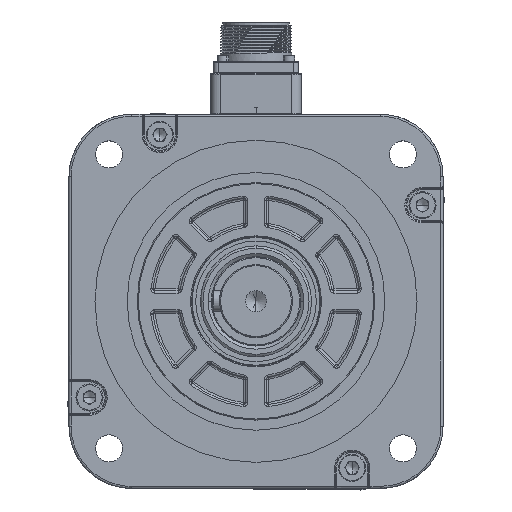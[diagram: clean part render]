
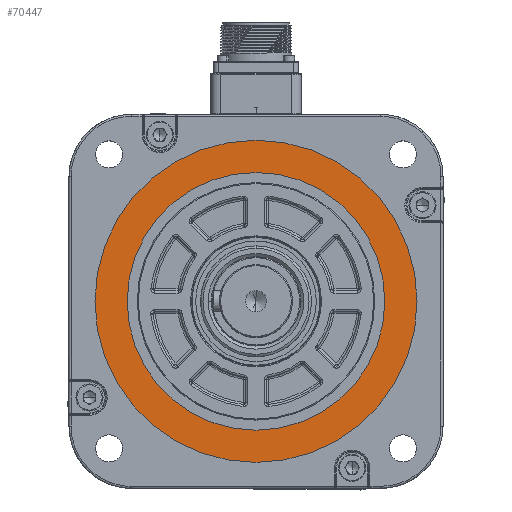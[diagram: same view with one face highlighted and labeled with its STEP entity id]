
A CAD part, top view. The second image highlights one B-rep face of the part: STEP entity #70447.
In plain terms, the highlighted planar face has unit normal (0, 0, 1) as drawn and (0, 0, -1) by its records, which use the part's own axes.
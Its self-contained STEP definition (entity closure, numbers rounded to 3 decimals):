
#2205 = EDGE_CURVE ( 'NONE', #91747, #92883, #133206, .T. ) ;
#12123 = AXIS2_PLACEMENT_3D ( 'NONE', #90935, #22994, #103531 ) ;
#15219 = VERTEX_POINT ( 'NONE', #129367 ) ;
#21522 = DIRECTION ( 'NONE',  ( 0., 0., -1. ) ) ;
#22994 = DIRECTION ( 'NONE',  ( 0., 0., -1. ) ) ;
#24578 = EDGE_LOOP ( 'NONE', ( #78151, #76892 ) ) ;
#26402 = ORIENTED_EDGE ( 'NONE', *, *, #145618, .T. ) ;
#31322 = DIRECTION ( 'NONE',  ( 0., 0., 1. ) ) ;
#32701 = CARTESIAN_POINT ( 'NONE',  ( 0., 0., 1.5 ) ) ;
#41618 = EDGE_CURVE ( 'NONE', #92883, #91747, #135496, .T. ) ;
#42532 = DIRECTION ( 'NONE',  ( -1., 0., 0. ) ) ;
#45432 = AXIS2_PLACEMENT_3D ( 'NONE', #66617, #21522, #67611 ) ;
#60597 = DIRECTION ( 'NONE',  ( 0., 0., 1. ) ) ;
#66617 = CARTESIAN_POINT ( 'NONE',  ( 0., 0., 1.5 ) ) ;
#66643 = DIRECTION ( 'NONE',  ( 0., 0., -1. ) ) ;
#67611 = DIRECTION ( 'NONE',  ( -1., 0., 0. ) ) ;
#70447 = ADVANCED_FACE ( 'NONE', ( #86280, #75319 ), #136572, .T. ) ;
#71715 = DIRECTION ( 'NONE',  ( -1., 0., 0. ) ) ;
#71766 = AXIS2_PLACEMENT_3D ( 'NONE', #32701, #66643, #124424 ) ;
#72312 = AXIS2_PLACEMENT_3D ( 'NONE', #76430, #31322, #42532 ) ;
#75319 = FACE_BOUND ( 'NONE', #24578, .T. ) ;
#76430 = CARTESIAN_POINT ( 'NONE',  ( 0., 0., 1.5 ) ) ;
#76892 = ORIENTED_EDGE ( 'NONE', *, *, #41618, .T. ) ;
#78151 = ORIENTED_EDGE ( 'NONE', *, *, #2205, .T. ) ;
#78773 = CARTESIAN_POINT ( 'NONE',  ( -62., 0., 1.5 ) ) ;
#78892 = VERTEX_POINT ( 'NONE', #91945 ) ;
#80378 = EDGE_CURVE ( 'NONE', #78892, #15219, #114824, .T. ) ;
#86280 = FACE_OUTER_BOUND ( 'NONE', #124099, .T. ) ;
#90935 = CARTESIAN_POINT ( 'NONE',  ( 0., 0., 1.5 ) ) ;
#91747 = VERTEX_POINT ( 'NONE', #78773 ) ;
#91945 = CARTESIAN_POINT ( 'NONE',  ( -77.5, 0., 1.5 ) ) ;
#92883 = VERTEX_POINT ( 'NONE', #99196 ) ;
#99196 = CARTESIAN_POINT ( 'NONE',  ( 62., 0., 1.5 ) ) ;
#103531 = DIRECTION ( 'NONE',  ( -1., 0., 0. ) ) ;
#103593 = CIRCLE ( 'NONE', #12123, 77.5 ) ;
#104379 = AXIS2_PLACEMENT_3D ( 'NONE', #142707, #60597, #71715 ) ;
#114824 = CIRCLE ( 'NONE', #45432, 77.5 ) ;
#124099 = EDGE_LOOP ( 'NONE', ( #134728, #26402 ) ) ;
#124424 = DIRECTION ( 'NONE',  ( -1., 0., 0. ) ) ;
#129367 = CARTESIAN_POINT ( 'NONE',  ( 77.5, 0., 1.5 ) ) ;
#133206 = CIRCLE ( 'NONE', #104379, 62. ) ;
#134728 = ORIENTED_EDGE ( 'NONE', *, *, #80378, .T. ) ;
#135496 = CIRCLE ( 'NONE', #72312, 62. ) ;
#136572 = PLANE ( 'NONE',  #71766 ) ;
#142707 = CARTESIAN_POINT ( 'NONE',  ( 0., 0., 1.5 ) ) ;
#145618 = EDGE_CURVE ( 'NONE', #15219, #78892, #103593, .T. ) ;
